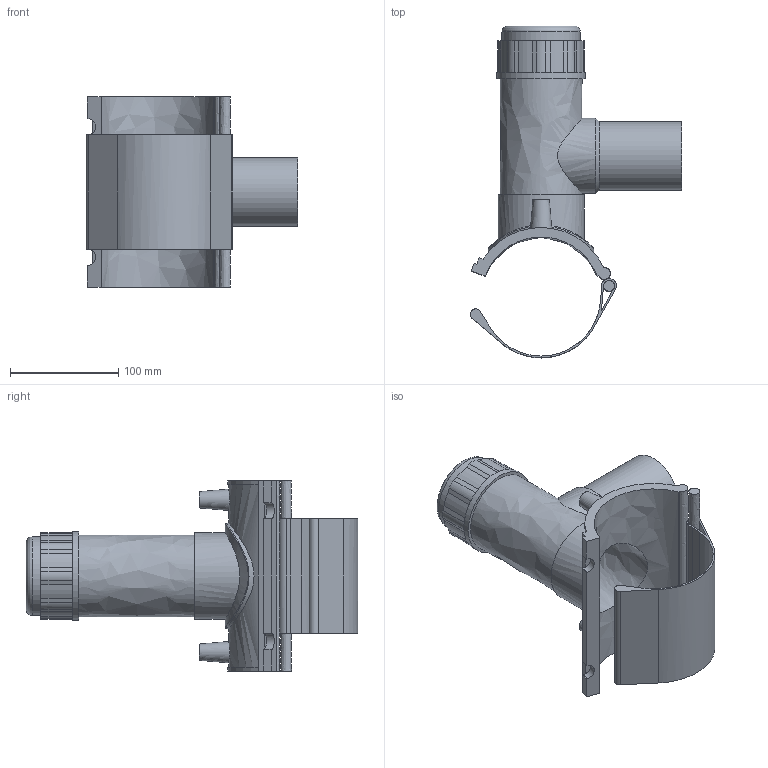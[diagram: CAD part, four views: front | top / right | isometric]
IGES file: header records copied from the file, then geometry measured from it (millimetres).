
Global section: file name: 491304110063; native system: Autodesk Inventor 2019; preprocessor: unknown; author: KIM; date: 20230323.112828; units: millimetre
Bounding box: 195.5 x 306.65 x 176 mm (x, y, z)
Volume: 742243.5 mm3; surface area: 228053.6 mm2
Topology: 2 solids, 2 shells, 108 faces, 282 edges, 193 vertices
Faces by surface type: bspline 108
